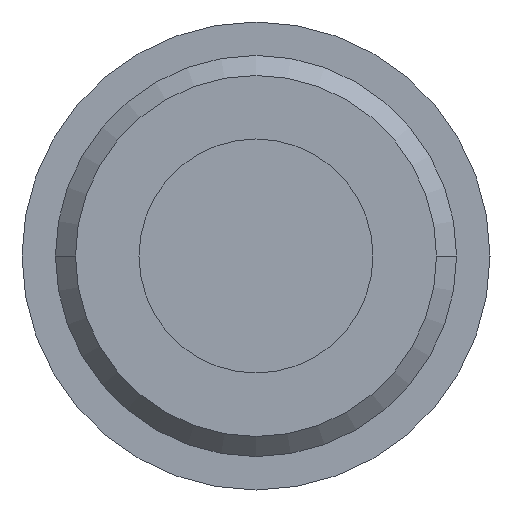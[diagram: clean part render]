
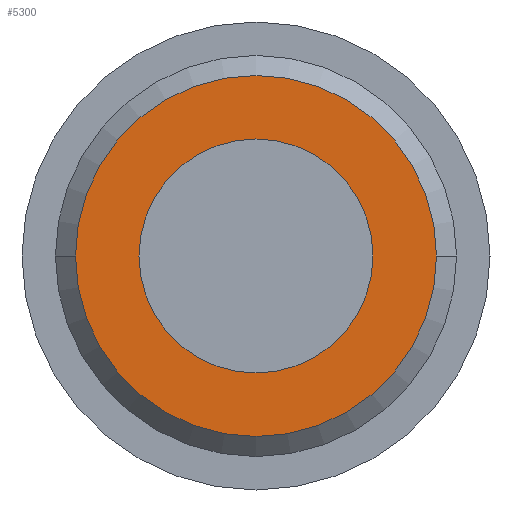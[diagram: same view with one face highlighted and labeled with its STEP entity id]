
A CAD part, left-side view. The second image highlights one B-rep face of the part: STEP entity #5300.
In plain terms, the highlighted planar face has unit normal (-1, 0, 0).
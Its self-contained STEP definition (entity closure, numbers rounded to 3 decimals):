
#4810=CARTESIAN_POINT('',(9.,2.7,0.));
#4820=VERTEX_POINT('',#4810);
#4910=CARTESIAN_POINT('',(9.,-2.7,0.));
#4920=VERTEX_POINT('',#4910);
#4950=CARTESIAN_POINT('',(9.,0.,0.));
#4960=DIRECTION('',(1.,0.,0.));
#4970=DIRECTION('',(0.,-1.,0.));
#4980=AXIS2_PLACEMENT_3D('',#4950,#4960,#4970);
#4990=CIRCLE('',#4980,2.7);
#5000=EDGE_CURVE('',#4820,#4920,#4990,.T.);
#5050=CARTESIAN_POINT('',(9.,2.225,0.));
#5060=DIRECTION('',(-1.,0.,0.));
#5070=DIRECTION('',(0.,1.,0.));
#5080=AXIS2_PLACEMENT_3D('',#5050,#5060,#5070);
#5090=PLANE('',#5080);
#5100=CARTESIAN_POINT('',(9.,0.,0.));
#5110=DIRECTION('',(1.,0.,0.));
#5120=DIRECTION('',(0.,1.,0.));
#5130=AXIS2_PLACEMENT_3D('',#5100,#5110,#5120);
#5140=CIRCLE('',#5130,1.75);
#5150=CARTESIAN_POINT('',(9.,1.75,0.));
#5160=VERTEX_POINT('',#5150);
#5170=CARTESIAN_POINT('',(9.,-1.75,0.));
#5180=VERTEX_POINT('',#5170);
#5190=EDGE_CURVE('',#5160,#5180,#5140,.T.);
#5200=ORIENTED_EDGE('',*,*,#5190,.T.);
#5210=EDGE_CURVE('',#5180,#5160,#5140,.T.);
#5220=ORIENTED_EDGE('',*,*,#5210,.T.);
#5230=EDGE_LOOP('',(#5220,#5200));
#5240=FACE_BOUND('',#5230,.T.);
#5250=EDGE_CURVE('',#4920,#4820,#4990,.T.);
#5260=ORIENTED_EDGE('',*,*,#5250,.F.);
#5270=ORIENTED_EDGE('',*,*,#5000,.F.);
#5280=EDGE_LOOP('',(#5270,#5260));
#5290=FACE_OUTER_BOUND('',#5280,.T.);
#5300=ADVANCED_FACE('',(#5240,#5290),#5090,.T.);
